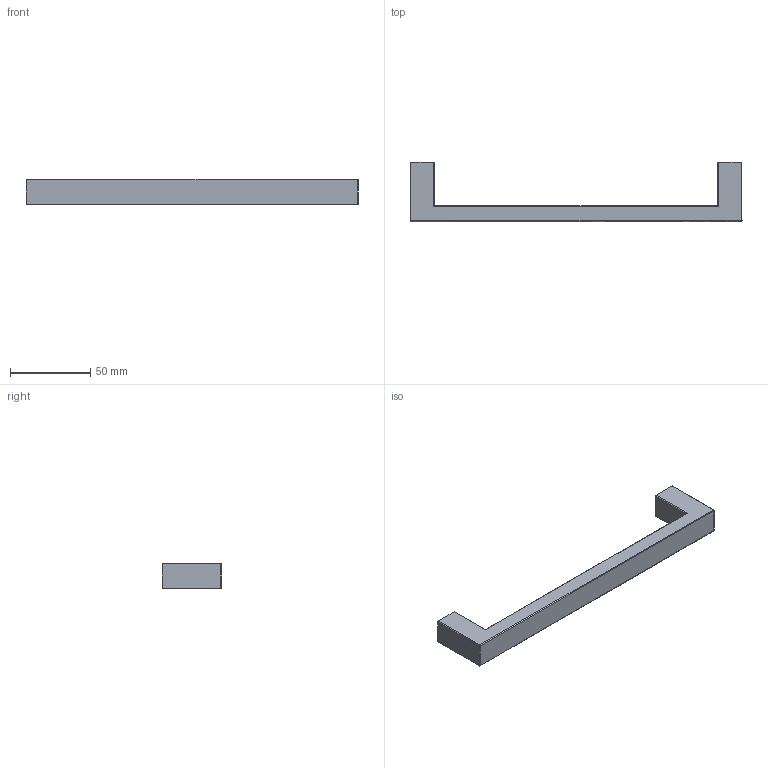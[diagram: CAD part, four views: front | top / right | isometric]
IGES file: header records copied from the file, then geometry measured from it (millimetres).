
Start section: Data from Parasolid IGES Translator 15.0.47, Copyright(c) 2006 Siemens P LM Software. All Rights Reserved.
Global section: file name: 9069806.igs; native system:  By UGS Corp.; preprocessor: XPlus GENERIC/IGES 3.0; author: Noname; organization: Noname; date: 20140122.181644; units: millimetre
Bounding box: 207 x 37.01 x 16.01 mm (x, y, z)
Surface area: 14400 mm2 (no closed solid volume)
Topology: 0 solids, 0 shells, 34 faces, 164 edges, 162 vertices
Faces by surface type: revolution 18, extrusion 16
